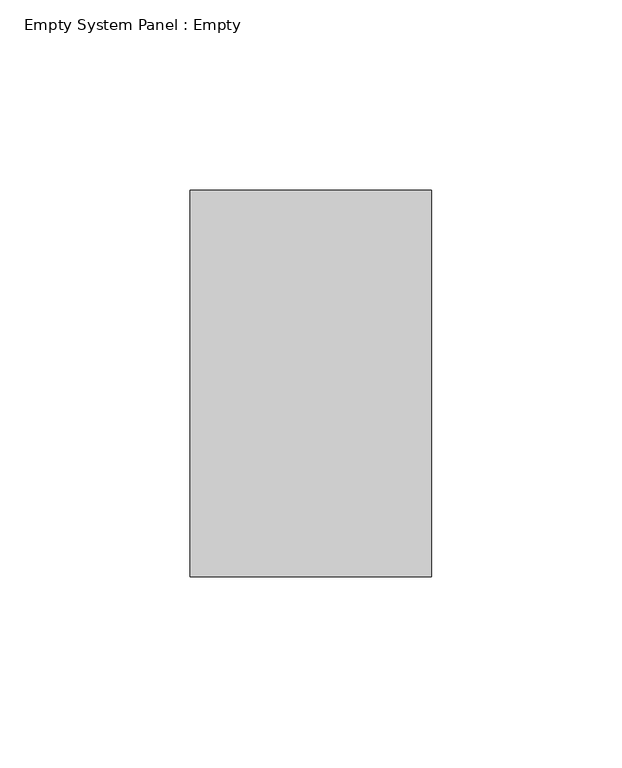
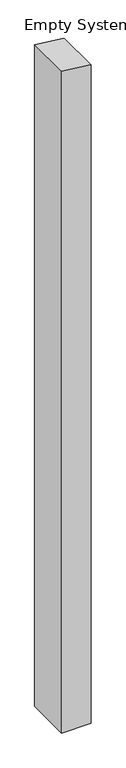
"""IFC4 building model written with IfcOpenShell, lengths in millimetres: plate geometry, Empty System Panel : Empty."""

from ifc_helpers import new_model, si_unit, frame, origin, place, context, project, spatial, polyline, outline, extrude, source, transform, mapped, element, save


def empty_system_panel_empty_b234d357(model_context):
    return source(origin(), model_context, "Body", "SweptSolid", [
        extrude(outline(polyline([(0.0, -31.75), (0.0, 31.75), (1511.2280986, 31.75), (1518.3304576, -31.75), (0.0, -31.75)])), frame((0.0, -50.8, 0.0), z_axis=(0.0, 1.0, 0.0), x_axis=(0.0, 0.0, 1.0)), (0.0, 0.0, 1.0), 101.6),
    ])


if __name__ == "__main__":
    model = new_model("IFC4")
    model_context = context("Model", 3, world=origin())
    ifc_project = project(units=[si_unit("LENGTHUNIT", "METRE", prefix="MILLI")], contexts=[model_context])
    site = spatial("IfcSite", under=ifc_project)
    building = spatial("IfcBuilding", under=site)
    placement = place(None, origin())
    empty_system_panel_empty_shape = empty_system_panel_empty_b234d357(model_context)
    element("IfcPlate", 1, ObjectType="Empty System Panel : Empty", at=placement, inside=building, context=model_context, shape_type="MappedRepresentation", body=[
        mapped(empty_system_panel_empty_shape, transform((0.0, 0.0, 0.0), x_axis=(1.0, 0.0, 0.0), y_axis=(0.0, 1.0, 0.0), z_axis=(0.0, 0.0, 1.0))),
    ])
    save(model, "model.ifc")
